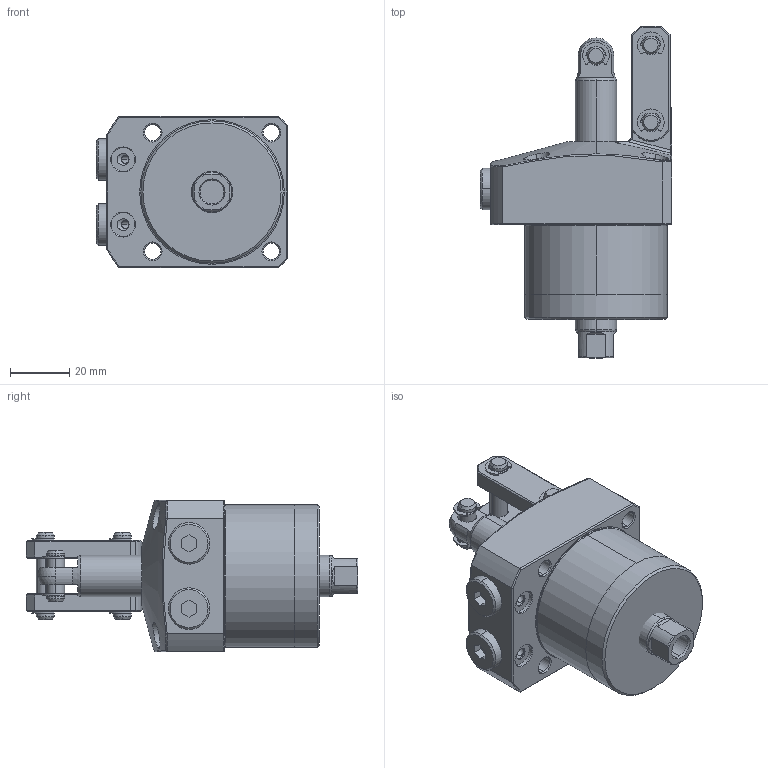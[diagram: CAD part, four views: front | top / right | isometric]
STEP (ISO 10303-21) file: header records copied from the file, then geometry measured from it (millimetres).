
FILE_DESCRIPTION(/* description */ (''),/* implementation_level */ '2;1');
FILE_NAME(/* name */ 'KTPC48-FD.stp',/* time_stamp */ '2022-11-19T07:27:45+08:00',/* author */ (''),/* organization */ (''),/* preprocessor_version */ 'ST-DEVELOPER v16.7',/* originating_system */ 'SIEMENS PLM Software NX 12.0',/* authorisation */ '');
FILE_SCHEMA (('AP203_CONFIGURATION_CONTROLLED_3D_DESIGN_OF_MECHANICAL_PARTS_AND_ASSEMBLIES_MIM_LF { 1 0 10303 403 2 1 2}'));
Length unit declared in the file: millimetre
Products named in the file (9): KTPC48-FD-06; KTPC48-FD-07; KTPC48-FD-01; KTPC48-FD-05; KTPC48-FD-02; KTPC48-FD-03; KTPC48-FD-08; KTPC48-FD-04; LKA0480-CCD_step
Assembly tree (16 placements, depth 2):
  LKA0480-CCD_step
    KTPC48-FD-04  x2
    KTPC48-FD-08  x6
    KTPC48-FD-03
    KTPC48-FD-02
    KTPC48-FD-05  x2
    KTPC48-FD-01
    KTPC48-FD-07  x2
    KTPC48-FD-06
Bounding box: 64.5 x 112 x 51 mm (x, y, z)
Volume: 191389.8 mm3; surface area: 37285.4 mm2
Topology: 16 solids, 16 shells, 588 faces, 1420 edges, 887 vertices
Faces by surface type: cylinder 244, plane 185, cone 76, torus 64, bspline 17, sphere 2
Full cylindrical faces by diameter (mm): 48 x1
Entity records: 12415 total; most frequent: CARTESIAN_POINT 3134, DIRECTION 1754, ORIENTED_EDGE 1628, EDGE_CURVE 814, AXIS2_PLACEMENT_3D 715, VERTEX_POINT 501, EDGE_LOOP 393, CIRCLE 364
